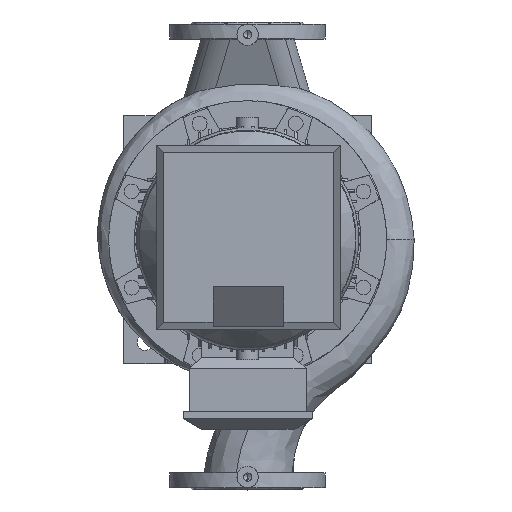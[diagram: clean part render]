
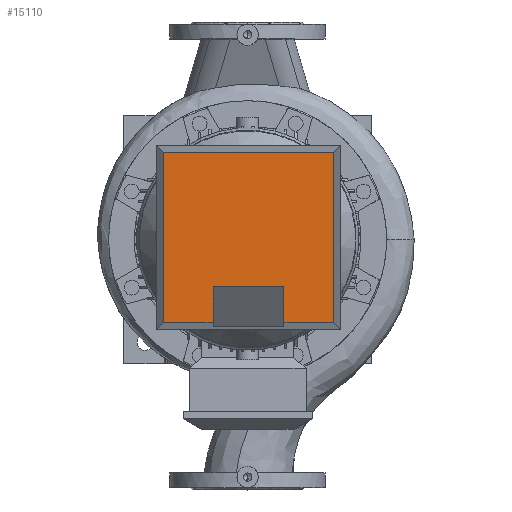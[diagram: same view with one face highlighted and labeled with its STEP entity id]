
A CAD part, top view. The second image highlights one B-rep face of the part: STEP entity #15110.
In plain terms, the highlighted planar face has unit normal (0, 0, 1) as drawn and (0, 1, 0) by its records, which use the part's own axes.
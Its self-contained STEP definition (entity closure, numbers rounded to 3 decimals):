
#15110=ADVANCED_FACE('',(#29755),#29756,.T.);
#15120=EDGE_CURVE('',#29771,#29768,#29772,.T.);
#29755=FACE_OUTER_BOUND('',#54213,.T.);
#29756=PLANE('',#54214);
#29768=VERTEX_POINT('',#54227);
#29771=VERTEX_POINT('',#54232);
#29772=LINE('',#54233,#54234);
#54213=EDGE_LOOP('',(#75834,#75835,#75836,#75837,#75838,#75839,#75840,#75841));
#54214=AXIS2_PLACEMENT_3D('',#75842,#75843,#75844);
#54227=CARTESIAN_POINT('',(-50.0,90.0,199.485));
#54232=CARTESIAN_POINT('',(-50.0,90.0,250.0));
#54233=CARTESIAN_POINT('',(-50.0,90.0,127.834));
#54234=VECTOR('',#75870,1.0);
#75834=ORIENTED_EDGE('',*,*,#79921,.T.);
#75835=ORIENTED_EDGE('',*,*,#79927,.F.);
#75836=ORIENTED_EDGE('',*,*,#79935,.F.);
#75837=ORIENTED_EDGE('',*,*,#79937,.F.);
#75838=ORIENTED_EDGE('',*,*,#79929,.F.);
#75839=ORIENTED_EDGE('',*,*,#79923,.F.);
#75840=ORIENTED_EDGE('',*,*,#15120,.T.);
#75841=ORIENTED_EDGE('',*,*,#79917,.T.);
#75842=CARTESIAN_POINT('',(0.0,90.0,0.0));
#75843=DIRECTION('',(0.0,1.0,-0.0));
#75844=DIRECTION('',(-1.0,0.0,0.0));
#75870=DIRECTION('',(0.0,-0.0,-1.0));
#79917=EDGE_CURVE('',#29768,#85177,#85180,.T.);
#79921=EDGE_CURVE('',#85177,#85183,#85185,.T.);
#79923=EDGE_CURVE('',#29771,#85187,#85188,.T.);
#79927=EDGE_CURVE('',#85193,#85183,#85195,.T.);
#79929=EDGE_CURVE('',#85187,#85197,#85198,.T.);
#79935=EDGE_CURVE('',#85203,#85193,#85205,.T.);
#79937=EDGE_CURVE('',#85197,#85203,#85207,.T.);
#85177=VERTEX_POINT('',#97914);
#85180=LINE('',#97918,#97919);
#85183=VERTEX_POINT('',#97923);
#85185=LINE('',#97926,#97927);
#85187=VERTEX_POINT('',#97929);
#85188=LINE('',#97930,#97931);
#85193=VERTEX_POINT('',#97938);
#85195=LINE('',#97941,#97942);
#85197=VERTEX_POINT('',#97944);
#85198=LINE('',#97945,#97946);
#85203=VERTEX_POINT('',#97954);
#85205=LINE('',#97957,#97958);
#85207=LINE('',#97960,#97961);
#97914=CARTESIAN_POINT('',(50.0,90.0,199.485));
#97918=CARTESIAN_POINT('',(-25.0,90.0,199.485));
#97919=VECTOR('',#101068,1.0);
#97923=CARTESIAN_POINT('',(50.0,90.0,250.0));
#97926=CARTESIAN_POINT('',(50.0,90.0,127.834));
#97927=VECTOR('',#101071,1.0);
#97929=CARTESIAN_POINT('',(-120.0,90.0,250.0));
#97930=CARTESIAN_POINT('',(65.0,90.0,250.0));
#97931=VECTOR('',#101072,1.0);
#97938=CARTESIAN_POINT('',(120.0,90.0,250.0));
#97941=CARTESIAN_POINT('',(65.0,90.0,250.0));
#97942=VECTOR('',#101076,1.0);
#97944=CARTESIAN_POINT('',(-120.0,90.0,10.0));
#97945=CARTESIAN_POINT('',(-120.0,90.0,0.0));
#97946=VECTOR('',#101077,1.0);
#97954=CARTESIAN_POINT('',(120.0,90.0,10.0));
#97957=CARTESIAN_POINT('',(120.0,90.0,0.0));
#97958=VECTOR('',#101082,1.0);
#97960=CARTESIAN_POINT('',(65.0,90.0,10.0));
#97961=VECTOR('',#101083,1.0);
#101068=DIRECTION('',(1.0,0.0,0.0));
#101071=DIRECTION('',(-0.0,0.0,1.0));
#101072=DIRECTION('',(-1.0,0.0,-0.0));
#101076=DIRECTION('',(-1.0,0.0,-0.0));
#101077=DIRECTION('',(-0.0,-0.0,-1.0));
#101082=DIRECTION('',(-0.0,0.0,1.0));
#101083=DIRECTION('',(1.0,-0.0,-0.0));
